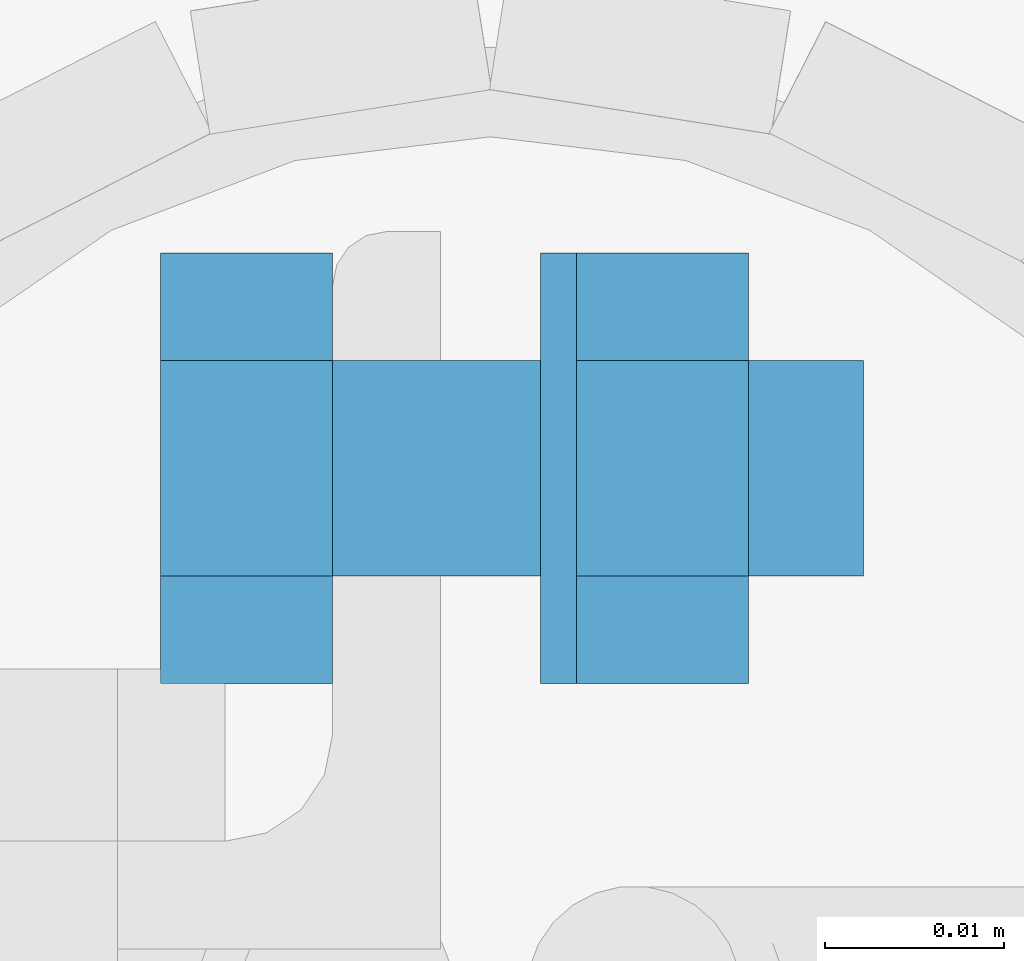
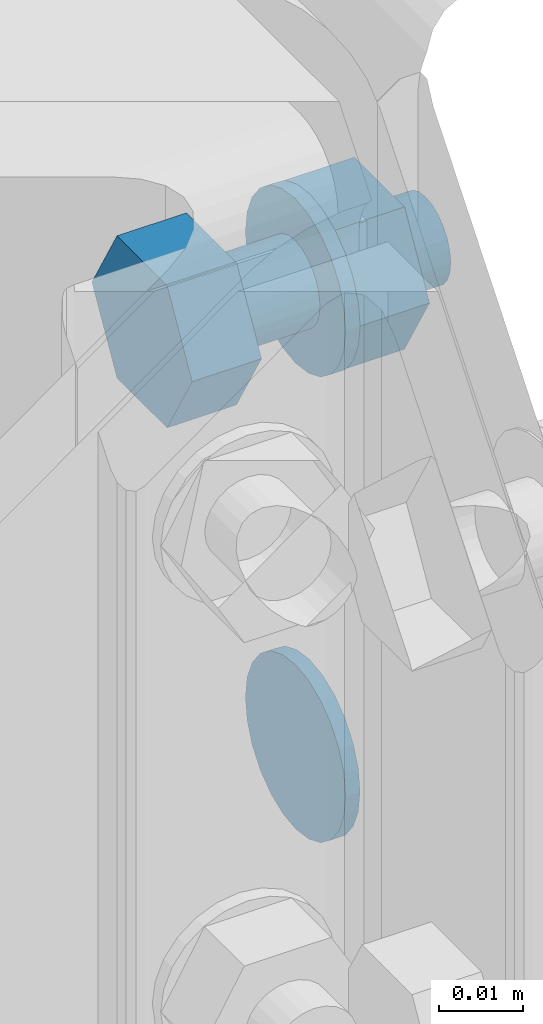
# One storey, part 84 of 84: 5 mechanical fasteners.
"""IFC4 building model written with IfcOpenShell, lengths in metres."""

import ifcopenshell
import ifcopenshell.guid

model = None  # the IFC model being written
_history = None  # IfcOwnerHistory: only IFC2X3 demands one
_inside = {}  # id of a spatial element -> (the spatial element, [elements in it])
_under = {}  # id of a project, library or spatial element -> (it, [spatial elements below it])
_declared = {}  # id of a project -> (the project, [libraries it declares])
_typed = {}  # id of a type object -> (the type object, [elements of that type])
_made_of = {}  # id of a material, layer set ... -> (it, [elements and type objects made of it])


def new_model(schema):
    """Start an empty IFC model of exactly this schema.

    Asked for "IFC4X3", IfcOpenShell would pick the latest addendum, in which some entities
    have other attributes; the version numbers below select the first issue.
    IFC2X3 requires an IfcOwnerHistory on every rooted entity: one is made here for all.
    """
    global model, _history
    if schema == "IFC4X3":
        model = ifcopenshell.file(schema_version=(4, 3, 0, 0))
    else:
        model = ifcopenshell.file(schema=schema)
    _inside.clear()
    _under.clear()
    _declared.clear()
    _typed.clear()
    _made_of.clear()
    _history = None
    if model.schema == "IFC2X3":
        org = make("IfcOrganization", Name="unknown")
        user = make(
            "IfcPersonAndOrganization",
            ThePerson=make("IfcPerson", FamilyName="unknown"),
            TheOrganization=org,
        )
        app = make(
            "IfcApplication",
            ApplicationDeveloper=org,
            Version="unknown",
            ApplicationFullName="unknown",
            ApplicationIdentifier="unknown",
        )
        _history = make(
            "IfcOwnerHistory",
            OwningUser=user,
            OwningApplication=app,
            ChangeAction="ADDED",
            CreationDate=0,
        )
    return model


def make(cls, **values):
    """One entity of the class cls with the attributes given. An attribute that is None is left unset."""
    return model.create_entity(
        cls, **{name: value for name, value in values.items() if value is not None}
    )


def rooted(cls, **values):
    """An entity with a GlobalId (a new one), such as an element, a storey or a relation."""
    return make(cls, GlobalId=ifcopenshell.guid.new(), OwnerHistory=_history, **values)


def si_unit(unit_type, name, prefix=None):
    """IfcSIUnit, for example si_unit("LENGTHUNIT", "METRE", prefix="MILLI")."""
    return make("IfcSIUnit", UnitType=unit_type, Prefix=prefix, Name=name)


def assignment(units):
    """IfcUnitAssignment: the units of a project."""
    return None if units is None else make("IfcUnitAssignment", Units=units)


def point(xyz):
    """IfcCartesianPoint."""
    return None if xyz is None else make("IfcCartesianPoint", Coordinates=xyz)


def direction(xyz):
    """IfcDirection."""
    return None if xyz is None else make("IfcDirection", DirectionRatios=xyz)


def frame(location, z_axis=None, x_axis=None):
    """IfcAxis2Placement3D, a coordinate frame: its origin and axes. An axis left out is left unset."""
    return make(
        "IfcAxis2Placement3D",
        Location=point(location),
        Axis=direction(z_axis),
        RefDirection=direction(x_axis),
    )


def origin_with_axes():
    """The frame at (0, 0, 0) with the z axis (0, 0, 1) and the x axis (1, 0, 0) written out."""
    return frame((0.0, 0.0, 0.0), z_axis=(0.0, 0.0, 1.0), x_axis=(1.0, 0.0, 0.0))


def place(relative_to, where):
    """IfcLocalPlacement: puts the frame where relative to a parent placement (None: the world)."""
    return make(
        "IfcLocalPlacement", PlacementRelTo=relative_to, RelativePlacement=where
    )


def context(
    kind, dimensions, precision=None, world=None, true_north=None, identifier=None
):
    """IfcGeometricRepresentationContext, for example the 3D "Model" context."""
    return make(
        "IfcGeometricRepresentationContext",
        ContextIdentifier=identifier,
        ContextType=kind,
        CoordinateSpaceDimension=dimensions,
        Precision=precision,
        WorldCoordinateSystem=world,
        TrueNorth=true_north,
    )


def project(units=None, contexts=None):
    """IfcProject with its units and contexts."""
    return rooted(
        "IfcProject",
        Name="project",
        RepresentationContexts=contexts,
        UnitsInContext=assignment(units),
    )


def spatial(cls, under=None, at=None, **own):
    """A site, building, storey or space (cls), placed at a placement, below another one or the project."""
    s = rooted(cls, ObjectPlacement=at, **own)
    if under is not None:
        _under.setdefault(under.id(), (under, []))[1].append(s)
    return s


def polyline(points):
    """IfcPolyline through the points."""
    return make("IfcPolyline", Points=[point(p) for p in points])


def outline(outer, holes=None, kind="AREA"):
    """IfcArbitraryClosedProfileDef: a profile drawn as a closed curve; with holes, ...WithVoids."""
    if holes is None:
        return make("IfcArbitraryClosedProfileDef", ProfileType=kind, OuterCurve=outer)
    return make(
        "IfcArbitraryProfileDefWithVoids",
        ProfileType=kind,
        OuterCurve=outer,
        InnerCurves=holes,
    )


def extrude(swept, where, along, depth):
    """IfcExtrudedAreaSolid: the profile swept, set in the frame where, extruded along a direction by depth."""
    return make(
        "IfcExtrudedAreaSolid",
        SweptArea=swept,
        Position=where,
        ExtrudedDirection=direction(along),
        Depth=depth,
    )


def shape(context_of_items, identifier, shape_type, items):
    """IfcShapeRepresentation: the items that make up one representation, for example the "Body"."""
    return make(
        "IfcShapeRepresentation",
        ContextOfItems=context_of_items,
        RepresentationIdentifier=identifier,
        RepresentationType=shape_type,
        Items=items,
    )


def made_of(thing, what):
    """Note that an element or type object is made of a material, layer set ...; save() writes the relation."""
    if what is not None:
        _made_of.setdefault(what.id(), (what, []))[1].append(thing)
    return thing


def type_object(cls, material=None, **own):
    """A type object (cls), such as IfcWallType, which elements share."""
    return made_of(rooted(cls, **own), material)


def element(
    cls,
    number,
    at=None,
    inside=None,
    cuts=None,
    type_object=None,
    material=None,
    context=None,
    identifier="Body",
    shape_type=None,
    held_by="IfcProductDefinitionShape",
    body=None,
    shapes=None,
    **own,
):
    """One element of the class cls, such as IfcWall. Its Tag is "e" and its number.

    at: its placement. inside: the storey or other place that contains it. cuts: it is an
    opening in that element (IfcRelVoidsElement). A single representation is given by context,
    identifier, shape_type and body (its items); several are given by shapes. held_by: the class
    of the entity that holds the representations. save() writes the other relations.
    """
    e = rooted(cls, Tag="e%d" % number, ObjectPlacement=at, **own)
    if body is not None:
        shapes = [shape(context, identifier, shape_type, body)]
    if shapes is not None:
        e.Representation = make(held_by, Representations=shapes)
    if inside is not None:
        _inside.setdefault(inside.id(), (inside, []))[1].append(e)
    if cuts is not None:
        rooted(
            "IfcRelVoidsElement", RelatingBuildingElement=cuts, RelatedOpeningElement=e
        )
    if type_object is not None:
        _typed.setdefault(type_object.id(), (type_object, []))[1].append(e)
    return made_of(e, material)


def aggregate(whole, parts):
    """IfcRelAggregates: a whole, such as a stair, and the parts it consists of."""
    return rooted("IfcRelAggregates", RelatingObject=whole, RelatedObjects=parts)


def save(model, path):
    """Write the relations noted so far, then the file.

    IfcRelAggregates (storeys below a building ...), IfcRelContainedInSpatialStructure (elements
    in a storey), IfcRelDefinesByType, IfcRelAssociatesMaterial and IfcRelDeclares: one each for
    every whole, place, type object, material and project.
    """
    for whole, parts in _under.values():
        aggregate(whole, parts)
    for where, things in _inside.values():
        rooted(
            "IfcRelContainedInSpatialStructure",
            RelatedElements=things,
            RelatingStructure=where,
        )
    for kind, things in _typed.values():
        rooted("IfcRelDefinesByType", RelatedObjects=things, RelatingType=kind)
    for what, things in _made_of.values():
        rooted("IfcRelAssociatesMaterial", RelatedObjects=things, RelatingMaterial=what)
    for by, libraries in _declared.values():
        rooted("IfcRelDeclares", RelatingContext=by, RelatedDefinitions=libraries)
    model.write(path)


model = new_model("IFC4")

# Units and contexts
model_context = context("Model", 3, precision=1e-05, world=origin_with_axes())
ifc_project = project(units=[si_unit("LENGTHUNIT", "METRE"), si_unit("AREAUNIT", "SQUARE_METRE"), si_unit("VOLUMEUNIT", "CUBIC_METRE"), si_unit("MASSUNIT", "GRAM", prefix="KILO"), si_unit("TIMEUNIT", "SECOND"), si_unit("PLANEANGLEUNIT", "RADIAN"), si_unit("SOLIDANGLEUNIT", "STERADIAN"), si_unit("THERMODYNAMICTEMPERATUREUNIT", "DEGREE_CELSIUS")], contexts=[model_context])

# Site, building, storey
placement_1 = place(None, origin_with_axes())
site = spatial("IfcSite", under=ifc_project, at=placement_1, Name="Italia", CompositionType="ELEMENT")
building = spatial("IfcBuilding", under=site, at=placement_1, Name="Tettoia", CompositionType="ELEMENT")
storey_placement = place(None, frame((0.0, 0.0, 4.199999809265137), z_axis=(0.0, 0.0, 1.0), x_axis=(1.0, 0.0, 0.0)))
storey = spatial("IfcBuildingStorey", under=building, at=storey_placement, Name="Storey 1", CompositionType="ELEMENT", Elevation=4.199999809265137)

# Mechanical fasteners
mechanical_fastener_type_1 = type_object("IfcMechanicalFastenerType", Name="Collegamento 0115_0114", PredefinedType="BOLT")
placement_2 = place(placement_1, origin_with_axes())
mechanical_fastener_1_placement = place(placement_2, origin_with_axes())
element("IfcMechanicalFastener", 1, at=mechanical_fastener_1_placement, inside=storey, type_object=mechanical_fastener_type_1, Name="Collegamento 0115_0114", NominalDiameter=0.024, context=model_context, shape_type="SweptSolid", body=[
    extrude(outline(polyline([(0.0, 0.0), (-0.000408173, -0.00310564), (-0.00160599, -0.00600004), (-0.00351334, -0.00848532), (-0.00599861, -0.0103922), (-0.00889397, -0.011591), (-0.0119991, -0.0120001), (-0.0151043, -0.011591), (-0.0179996, -0.0103922), (-0.0204849, -0.00848532), (-0.0223923, -0.00600004), (-0.0235901, -0.00310564), (-0.0239983, 0.0), (-0.0235901, 0.00310564), (-0.0223923, 0.00600004), (-0.0204849, 0.00848532), (-0.0179996, 0.0103922), (-0.0151043, 0.011591), (-0.0119991, 0.0120001), (-0.00889397, 0.011591), (-0.00599861, 0.0103922), (-0.00351334, 0.00848532), (-0.00160599, 0.00600004), (-0.000408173, 0.00310564), (0.0, 0.0)])), frame((4.0728, 19.8613, 4.266), z_axis=(1.0, 0.0, 0.0), x_axis=(0.0, 1.0, 0.0)), (0.0, 0.0, 1.0), 0.00199986),
])
mechanical_fastener_type_2 = type_object("IfcMechanicalFastenerType", Name="Collegamento 0115_0114", PredefinedType="BOLT")
mechanical_fastener_2_placement = place(placement_2, origin_with_axes())
element("IfcMechanicalFastener", 2, at=mechanical_fastener_2_placement, inside=storey, type_object=mechanical_fastener_type_2, Name="Collegamento 0115_0114", NominalDiameter=0.0119991, context=model_context, shape_type="SweptSolid", body=[
    extrude(outline(polyline([(0.0, 0.0), (-0.0119991, 0.0), (-0.0179996, 0.0103922), (-0.0119991, 0.0207844), (0.0, 0.0207844), (0.00600052, 0.0103922), (0.0, 0.0)])), frame((4.0516, 19.8553, 4.32361), z_axis=(1.0, 0.0, 0.0), x_axis=(0.0, 1.0, 0.0)), (0.0, 0.0, 1.0), 0.00960016),
])
mechanical_fastener_type_3 = type_object("IfcMechanicalFastenerType", Name="Collegamento 0115_0114", PredefinedType="BOLT")
mechanical_fastener_3_placement = place(placement_2, origin_with_axes())
element("IfcMechanicalFastener", 3, at=mechanical_fastener_3_placement, inside=storey, type_object=mechanical_fastener_type_3, Name="Collegamento 0115_0114", NominalDiameter=0.012, context=model_context, shape_type="SweptSolid", body=[
    extrude(outline(polyline([(0.0, 0.0), (-0.000204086, -0.00155306), (-0.000804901, -0.00299978), (-0.00175858, -0.00424242), (-0.00300026, -0.00519609), (-0.00444794, -0.00579548), (-0.00600052, -0.00600004), (-0.0075531, -0.00579548), (-0.00900078, -0.00519609), (-0.0102425, -0.00424242), (-0.0111961, -0.00299978), (-0.011797, -0.00155306), (-0.012001, 0.0), (-0.011797, 0.00155306), (-0.0111961, 0.00299978), (-0.0102425, 0.00424242), (-0.00900078, 0.00519609), (-0.0075531, 0.00579548), (-0.00600052, 0.00600004), (-0.00444794, 0.00579548), (-0.00300026, 0.00519609), (-0.00175858, 0.00424242), (-0.000804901, 0.00299978), (-0.000204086, 0.00155306), (0.0, 0.0)])), frame((4.0612, 19.8553, 4.334), z_axis=(1.0, 0.0, 0.0), x_axis=(0.0, 1.0, 0.0)), (0.0, 0.0, 1.0), 0.0296001),
])
mechanical_fastener_type_4 = type_object("IfcMechanicalFastenerType", Name="Collegamento 0115_0114", PredefinedType="BOLT")
mechanical_fastener_4_placement = place(placement_2, origin_with_axes())
element("IfcMechanicalFastener", 4, at=mechanical_fastener_4_placement, inside=storey, type_object=mechanical_fastener_type_4, Name="Collegamento 0115_0114", NominalDiameter=0.0119991, context=model_context, shape_type="SweptSolid", body=[
    extrude(outline(polyline([(0.0, 0.0), (-0.0119991, 0.0), (-0.0179996, 0.0103922), (-0.0119991, 0.0207844), (0.0, 0.0207844), (0.00600052, 0.0103922), (0.0, 0.0)])), frame((4.0748, 19.8553, 4.32361), z_axis=(1.0, 0.0, 0.0), x_axis=(0.0, 1.0, 0.0)), (0.0, 0.0, 1.0), 0.00960016),
])
mechanical_fastener_type_5 = type_object("IfcMechanicalFastenerType", Name="Collegamento 0115_0114", PredefinedType="BOLT")
mechanical_fastener_5_placement = place(placement_2, origin_with_axes())
element("IfcMechanicalFastener", 5, at=mechanical_fastener_5_placement, inside=storey, type_object=mechanical_fastener_type_5, Name="Collegamento 0115_0114", NominalDiameter=0.024, context=model_context, shape_type="SweptSolid", body=[
    extrude(outline(polyline([(0.0, 0.0), (-0.000408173, -0.00310564), (-0.00160599, -0.00600004), (-0.00351334, -0.00848532), (-0.00599861, -0.0103922), (-0.00889397, -0.011591), (-0.0119991, -0.0120001), (-0.0151043, -0.011591), (-0.0179996, -0.0103922), (-0.0204849, -0.00848532), (-0.0223923, -0.00600004), (-0.0235901, -0.00310564), (-0.0239983, 0.0), (-0.0235901, 0.00310564), (-0.0223923, 0.00600004), (-0.0204849, 0.00848532), (-0.0179996, 0.0103922), (-0.0151043, 0.011591), (-0.0119991, 0.0120001), (-0.00889397, 0.011591), (-0.00599861, 0.0103922), (-0.00351334, 0.00848532), (-0.00160599, 0.00600004), (-0.000408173, 0.00310564), (0.0, 0.0)])), frame((4.0728, 19.8613, 4.334), z_axis=(1.0, 0.0, 0.0), x_axis=(0.0, 1.0, 0.0)), (0.0, 0.0, 1.0), 0.00199986),
])

save(model, "model.ifc")
